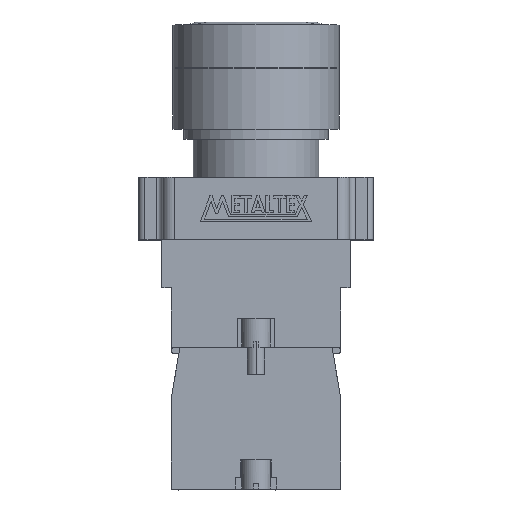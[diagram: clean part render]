
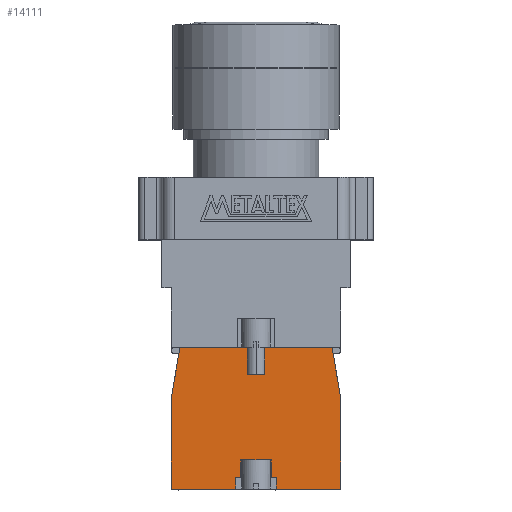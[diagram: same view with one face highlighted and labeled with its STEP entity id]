
A CAD part, top view. The second image highlights one B-rep face of the part: STEP entity #14111.
In plain terms, the highlighted planar face has unit normal (0, 0, 1).
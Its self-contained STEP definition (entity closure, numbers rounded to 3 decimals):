
#1783 = VECTOR ( 'NONE', #2274, 1000. ) ;
#1785 = VECTOR ( 'NONE', #2271, 1000. ) ;
#1786 = VECTOR ( 'NONE', #2268, 1000. ) ;
#1788 = VECTOR ( 'NONE', #2265, 1000. ) ;
#1789 = VECTOR ( 'NONE', #2262, 1000. ) ;
#2113 = LINE ( 'NONE', #2114, #15748 ) ;
#2114 = CARTESIAN_POINT ( 'NONE',  ( -14.5, 0., 7.45 ) ) ;
#2115 = DIRECTION ( 'NONE',  ( 1., 0., 0. ) ) ;
#2122 = LINE ( 'NONE', #2123, #15742 ) ;
#2123 = CARTESIAN_POINT ( 'NONE',  ( -14.5, 0., 7.45 ) ) ;
#2124 = DIRECTION ( 'NONE',  ( 1., 0., 0. ) ) ;
#2236 = LINE ( 'NONE', #2237, #3070 ) ;
#2237 = CARTESIAN_POINT ( 'NONE',  ( 14.5, 0., 7.45 ) ) ;
#2238 = DIRECTION ( 'NONE',  ( 0., 1., 0. ) ) ;
#2248 = LINE ( 'NONE', #2249, #3862 ) ;
#2249 = CARTESIAN_POINT ( 'NONE',  ( -13., 24.2, 7.45 ) ) ;
#2250 = DIRECTION ( 'NONE',  ( -0.17, -0.985, 0. ) ) ;
#2251 = LINE ( 'NONE', #2252, #9573 ) ;
#2252 = CARTESIAN_POINT ( 'NONE',  ( -1.5, 19.6, 7.45 ) ) ;
#2253 = DIRECTION ( 'NONE',  ( 0., 1., 0. ) ) ;
#2254 = LINE ( 'NONE', #2255, #3041 ) ;
#2255 = CARTESIAN_POINT ( 'NONE',  ( -3.5, 0., 7.45 ) ) ;
#2256 = DIRECTION ( 'NONE',  ( 0., 1., 0. ) ) ;
#2257 = LINE ( 'NONE', #2258, #3040 ) ;
#2258 = CARTESIAN_POINT ( 'NONE',  ( 0., 2., 7.45 ) ) ;
#2259 = DIRECTION ( 'NONE',  ( 1., 0., 0. ) ) ;
#2260 = LINE ( 'NONE', #2261, #1789 ) ;
#2261 = CARTESIAN_POINT ( 'NONE',  ( -2.6, 0., 7.45 ) ) ;
#2262 = DIRECTION ( 'NONE',  ( 0., 1., 0. ) ) ;
#2263 = LINE ( 'NONE', #2264, #1788 ) ;
#2264 = CARTESIAN_POINT ( 'NONE',  ( 2.6, 0., 7.45 ) ) ;
#2265 = DIRECTION ( 'NONE',  ( 0., 1., 0. ) ) ;
#2266 = LINE ( 'NONE', #2267, #1786 ) ;
#2267 = CARTESIAN_POINT ( 'NONE',  ( 0., 2., 7.45 ) ) ;
#2268 = DIRECTION ( 'NONE',  ( 1., 0., 0. ) ) ;
#2269 = LINE ( 'NONE', #2270, #1785 ) ;
#2270 = CARTESIAN_POINT ( 'NONE',  ( 3.5, 0., 7.45 ) ) ;
#2271 = DIRECTION ( 'NONE',  ( 0., 1., 0. ) ) ;
#2272 = LINE ( 'NONE', #2273, #1783 ) ;
#2273 = CARTESIAN_POINT ( 'NONE',  ( 1.5, 19.6, 7.45 ) ) ;
#2274 = DIRECTION ( 'NONE',  ( 0., 1., 0. ) ) ;
#3040 = VECTOR ( 'NONE', #2259, 1000. ) ;
#3041 = VECTOR ( 'NONE', #2256, 1000. ) ;
#3070 = VECTOR ( 'NONE', #2238, 1000. ) ;
#3486 = EDGE_CURVE ( 'NONE', #11312, #11313, #9200, .T. ) ;
#3493 = EDGE_CURVE ( 'NONE', #11308, #11309, #9221, .T. ) ;
#3497 = EDGE_CURVE ( 'NONE', #11313, #11306, #9233, .T. ) ;
#3552 = EDGE_CURVE ( 'NONE', #11285, #11284, #9402, .T. ) ;
#3862 = VECTOR ( 'NONE', #2250, 1000. ) ;
#7089 = CARTESIAN_POINT ( 'NONE',  ( 3.5, 2., 7.45 ) ) ;
#7090 = CARTESIAN_POINT ( 'NONE',  ( 2.6, 2., 7.45 ) ) ;
#7091 = CARTESIAN_POINT ( 'NONE',  ( -2.6, 2., 7.45 ) ) ;
#7092 = CARTESIAN_POINT ( 'NONE',  ( -3.5, 2., 7.45 ) ) ;
#7730 = VECTOR ( 'NONE', #9235, 1000. ) ;
#7731 = VECTOR ( 'NONE', #9223, 1000. ) ;
#7844 = VECTOR ( 'NONE', #9404, 1000. ) ;
#7988 = VECTOR ( 'NONE', #9202, 1000. ) ;
#9200 = LINE ( 'NONE', #9201, #7988 ) ;
#9201 = CARTESIAN_POINT ( 'NONE',  ( 14.5, 15.5, 7.45 ) ) ;
#9202 = DIRECTION ( 'NONE',  ( -0.17, 0.985, 0. ) ) ;
#9221 = LINE ( 'NONE', #9222, #7731 ) ;
#9222 = CARTESIAN_POINT ( 'NONE',  ( 13., 24.2, 7.45 ) ) ;
#9223 = DIRECTION ( 'NONE',  ( -1., 0., 0. ) ) ;
#9233 = LINE ( 'NONE', #9234, #7730 ) ;
#9234 = CARTESIAN_POINT ( 'NONE',  ( 13., 24.2, 7.45 ) ) ;
#9235 = DIRECTION ( 'NONE',  ( -1., 0., 0. ) ) ;
#9402 = LINE ( 'NONE', #9403, #7844 ) ;
#9403 = CARTESIAN_POINT ( 'NONE',  ( 0., 5., 7.45 ) ) ;
#9404 = DIRECTION ( 'NONE',  ( -1., 0., 0. ) ) ;
#9573 = VECTOR ( 'NONE', #2253, 1000. ) ;
#11176 = VERTEX_POINT ( 'NONE', #7089 ) ;
#11177 = VERTEX_POINT ( 'NONE', #7090 ) ;
#11178 = VERTEX_POINT ( 'NONE', #7091 ) ;
#11179 = VERTEX_POINT ( 'NONE', #7092 ) ;
#11209 = VERTEX_POINT ( 'NONE', #21718 ) ;
#11212 = VERTEX_POINT ( 'NONE', #21721 ) ;
#11213 = VERTEX_POINT ( 'NONE', #21722 ) ;
#11271 = VERTEX_POINT ( 'NONE', #21780 ) ;
#11272 = VERTEX_POINT ( 'NONE', #21781 ) ;
#11279 = VERTEX_POINT ( 'NONE', #21788 ) ;
#11281 = VERTEX_POINT ( 'NONE', #21790 ) ;
#11284 = VERTEX_POINT ( 'NONE', #21793 ) ;
#11285 = VERTEX_POINT ( 'NONE', #21794 ) ;
#11306 = VERTEX_POINT ( 'NONE', #21815 ) ;
#11308 = VERTEX_POINT ( 'NONE', #21817 ) ;
#11309 = VERTEX_POINT ( 'NONE', #21818 ) ;
#11312 = VERTEX_POINT ( 'NONE', #21821 ) ;
#11313 = VERTEX_POINT ( 'NONE', #21822 ) ;
#11808 = LINE ( 'NONE', #11809, #15898 ) ;
#11809 = CARTESIAN_POINT ( 'NONE',  ( 0., 19.6, 7.45 ) ) ;
#11810 = DIRECTION ( 'NONE',  ( -1., 0., 0. ) ) ;
#11829 = LINE ( 'NONE', #11830, #15883 ) ;
#11830 = CARTESIAN_POINT ( 'NONE',  ( -14.5, 15.5, 7.45 ) ) ;
#11831 = DIRECTION ( 'NONE',  ( 0., -1., 0. ) ) ;
#12045 = EDGE_LOOP ( 'NONE', ( #20679, #20677, #20680, #20678, #20676, #20675, #20673, #20674, #20672, #20671, #20669, #20670, #20668, #20666, #20667, #20665, #20664, #20662 ) ) ;
#14111 = ADVANCED_FACE ( 'NONE', ( #16100 ), #19930, .T. ) ;
#14179 = EDGE_CURVE ( 'NONE', #11281, #11279, #11808, .T. ) ;
#14186 = EDGE_CURVE ( 'NONE', #11271, #11272, #11829, .T. ) ;
#14251 = EDGE_CURVE ( 'NONE', #11213, #11212, #2113, .T. ) ;
#14254 = EDGE_CURVE ( 'NONE', #11272, #11209, #2122, .T. ) ;
#14292 = EDGE_CURVE ( 'NONE', #11212, #11312, #2236, .T. ) ;
#14296 = EDGE_CURVE ( 'NONE', #11309, #11271, #2248, .T. ) ;
#14297 = EDGE_CURVE ( 'NONE', #11279, #11308, #2251, .T. ) ;
#14298 = EDGE_CURVE ( 'NONE', #11209, #11179, #2254, .T. ) ;
#14299 = EDGE_CURVE ( 'NONE', #11179, #11178, #2257, .T. ) ;
#14300 = EDGE_CURVE ( 'NONE', #11178, #11284, #2260, .T. ) ;
#14301 = EDGE_CURVE ( 'NONE', #11177, #11285, #2263, .T. ) ;
#14302 = EDGE_CURVE ( 'NONE', #11177, #11176, #2266, .T. ) ;
#14303 = EDGE_CURVE ( 'NONE', #11213, #11176, #2269, .T. ) ;
#14304 = EDGE_CURVE ( 'NONE', #11281, #11306, #2272, .T. ) ;
#15742 = VECTOR ( 'NONE', #2124, 1000. ) ;
#15748 = VECTOR ( 'NONE', #2115, 1000. ) ;
#15883 = VECTOR ( 'NONE', #11831, 1000. ) ;
#15898 = VECTOR ( 'NONE', #11810, 1000. ) ;
#16097 = AXIS2_PLACEMENT_3D ( 'NONE', #19931, #19932, #19933 ) ;
#16100 = FACE_OUTER_BOUND ( 'NONE', #12045, .T. ) ;
#19930 = PLANE ( 'NONE',  #16097 ) ;
#19931 = CARTESIAN_POINT ( 'NONE',  ( 0., 0., 7.45 ) ) ;
#19932 = DIRECTION ( 'NONE',  ( 0., 0., 1. ) ) ;
#19933 = DIRECTION ( 'NONE',  ( 1., 0., 0. ) ) ;
#20662 = ORIENTED_EDGE ( 'NONE', *, *, #14179, .T. ) ;
#20664 = ORIENTED_EDGE ( 'NONE', *, *, #14304, .F. ) ;
#20665 = ORIENTED_EDGE ( 'NONE', *, *, #3497, .T. ) ;
#20666 = ORIENTED_EDGE ( 'NONE', *, *, #14292, .T. ) ;
#20667 = ORIENTED_EDGE ( 'NONE', *, *, #3486, .T. ) ;
#20668 = ORIENTED_EDGE ( 'NONE', *, *, #14251, .T. ) ;
#20669 = ORIENTED_EDGE ( 'NONE', *, *, #14302, .T. ) ;
#20670 = ORIENTED_EDGE ( 'NONE', *, *, #14303, .F. ) ;
#20671 = ORIENTED_EDGE ( 'NONE', *, *, #14301, .F. ) ;
#20672 = ORIENTED_EDGE ( 'NONE', *, *, #3552, .F. ) ;
#20673 = ORIENTED_EDGE ( 'NONE', *, *, #14299, .T. ) ;
#20674 = ORIENTED_EDGE ( 'NONE', *, *, #14300, .T. ) ;
#20675 = ORIENTED_EDGE ( 'NONE', *, *, #14298, .T. ) ;
#20676 = ORIENTED_EDGE ( 'NONE', *, *, #14254, .T. ) ;
#20677 = ORIENTED_EDGE ( 'NONE', *, *, #3493, .T. ) ;
#20678 = ORIENTED_EDGE ( 'NONE', *, *, #14186, .T. ) ;
#20679 = ORIENTED_EDGE ( 'NONE', *, *, #14297, .T. ) ;
#20680 = ORIENTED_EDGE ( 'NONE', *, *, #14296, .T. ) ;
#21718 = CARTESIAN_POINT ( 'NONE',  ( -3.5, 0., 7.45 ) ) ;
#21721 = CARTESIAN_POINT ( 'NONE',  ( 14.5, 0., 7.45 ) ) ;
#21722 = CARTESIAN_POINT ( 'NONE',  ( 3.5, 0., 7.45 ) ) ;
#21780 = CARTESIAN_POINT ( 'NONE',  ( -14.5, 15.5, 7.45 ) ) ;
#21781 = CARTESIAN_POINT ( 'NONE',  ( -14.5, 0., 7.45 ) ) ;
#21788 = CARTESIAN_POINT ( 'NONE',  ( -1.5, 19.6, 7.45 ) ) ;
#21790 = CARTESIAN_POINT ( 'NONE',  ( 1.5, 19.6, 7.45 ) ) ;
#21793 = CARTESIAN_POINT ( 'NONE',  ( -2.6, 5., 7.45 ) ) ;
#21794 = CARTESIAN_POINT ( 'NONE',  ( 2.6, 5., 7.45 ) ) ;
#21815 = CARTESIAN_POINT ( 'NONE',  ( 1.5, 24.2, 7.45 ) ) ;
#21817 = CARTESIAN_POINT ( 'NONE',  ( -1.5, 24.2, 7.45 ) ) ;
#21818 = CARTESIAN_POINT ( 'NONE',  ( -13., 24.2, 7.45 ) ) ;
#21821 = CARTESIAN_POINT ( 'NONE',  ( 14.5, 15.5, 7.45 ) ) ;
#21822 = CARTESIAN_POINT ( 'NONE',  ( 13., 24.2, 7.45 ) ) ;
